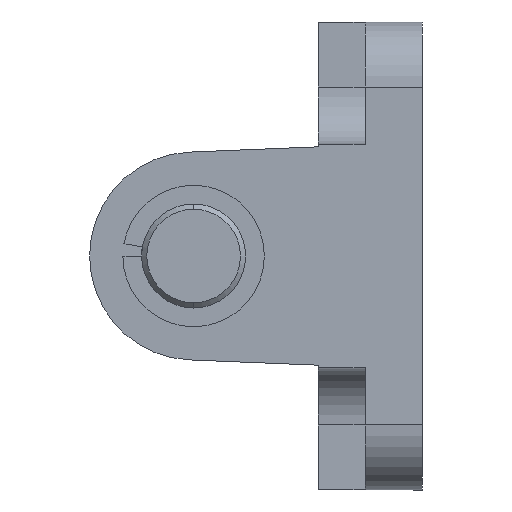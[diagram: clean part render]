
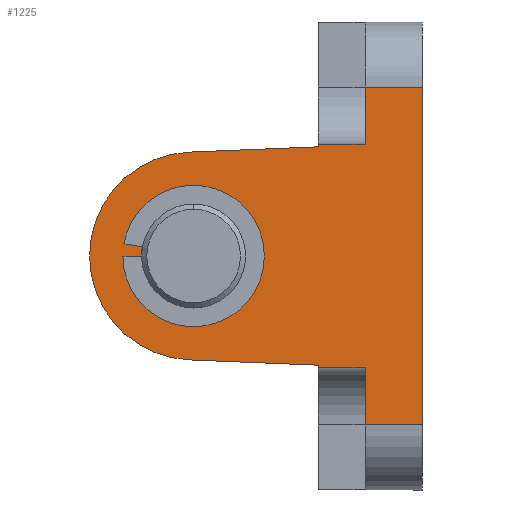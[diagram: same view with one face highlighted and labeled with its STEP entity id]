
A CAD part, left-side view. The second image highlights one B-rep face of the part: STEP entity #1225.
In plain terms, the highlighted planar face has unit normal (-1, 0, 0).
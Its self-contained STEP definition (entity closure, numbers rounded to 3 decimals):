
#337 = DIRECTION ( 'NONE',  ( 0., 1., 0. ) ) ;
#338 = CARTESIAN_POINT ( 'NONE',  ( -22.5, -4.5, -16.25 ) ) ;
#340 = VECTOR ( 'NONE', #344, 1000. ) ;
#344 = DIRECTION ( 'NONE',  ( 0., 0., 1. ) ) ;
#346 = CARTESIAN_POINT ( 'NONE',  ( -22.5, 0., -16.25 ) ) ;
#347 = CARTESIAN_POINT ( 'NONE',  ( -22.5, -10., -16.25 ) ) ;
#348 = VECTOR ( 'NONE', #337, 1000. ) ;
#349 = LINE ( 'NONE', #346, #340 ) ;
#350 = LINE ( 'NONE', #347, #348 ) ;
#354 = VECTOR ( 'NONE', #356, 1000. ) ;
#355 = CARTESIAN_POINT ( 'NONE',  ( -22.5, -4.5, 10.75 ) ) ;
#356 = DIRECTION ( 'NONE',  ( 0., 0., 1. ) ) ;
#360 = LINE ( 'NONE', #355, #354 ) ;
#361 = DIRECTION ( 'NONE',  ( 0., 0., 1. ) ) ;
#362 = VECTOR ( 'NONE', #361, 1000. ) ;
#363 = CARTESIAN_POINT ( 'NONE',  ( -22.5, -4.5, -10.75 ) ) ;
#364 = LINE ( 'NONE', #363, #362 ) ;
#370 = CARTESIAN_POINT ( 'NONE',  ( -22.5, -10., -16.25 ) ) ;
#371 = DIRECTION ( 'NONE',  ( 0., 0., 1. ) ) ;
#372 = VECTOR ( 'NONE', #371, 1000. ) ;
#373 = CARTESIAN_POINT ( 'NONE',  ( -22.5, -10., -16.25 ) ) ;
#374 = LINE ( 'NONE', #373, #372 ) ;
#375 = CARTESIAN_POINT ( 'NONE',  ( -22.5, -4.5, 10.75 ) ) ;
#376 = LINE ( 'NONE', #375, #379 ) ;
#377 = CARTESIAN_POINT ( 'NONE',  ( -22.5, 0., -10.75 ) ) ;
#378 = DIRECTION ( 'NONE',  ( 0., 1., 0. ) ) ;
#379 = VECTOR ( 'NONE', #378, 1000. ) ;
#380 = FACE_BOUND ( 'NONE', #1191, .T. ) ;
#381 = FACE_OUTER_BOUND ( 'NONE', #1220, .T. ) ;
#383 = DIRECTION ( 'NONE',  ( 0., 1., 0. ) ) ;
#384 = VECTOR ( 'NONE', #383, 1000. ) ;
#385 = CARTESIAN_POINT ( 'NONE',  ( -22.5, -4.5, -10.75 ) ) ;
#386 = LINE ( 'NONE', #385, #384 ) ;
#387 = CARTESIAN_POINT ( 'NONE',  ( -22.5, -4.5, -10.75 ) ) ;
#388 = CARTESIAN_POINT ( 'NONE',  ( -22.5, 0., 10.75 ) ) ;
#389 = CARTESIAN_POINT ( 'NONE',  ( -22.5, -4.5, 10.75 ) ) ;
#394 = DIRECTION ( 'NONE',  ( 0., 0., 1. ) ) ;
#395 = DIRECTION ( 'NONE',  ( -1., 0., 0. ) ) ;
#396 = CARTESIAN_POINT ( 'NONE',  ( -22.5, -10., -16.25 ) ) ;
#397 = PLANE ( 'NONE',  #398 ) ;
#398 = AXIS2_PLACEMENT_3D ( 'NONE', #396, #395, #394 ) ;
#447 = EDGE_CURVE ( 'NONE', #534, #538, #1624, .T. ) ;
#458 = VERTEX_POINT ( 'NONE', #1633 ) ;
#482 = EDGE_CURVE ( 'NONE', #458, #534, #1716, .T. ) ;
#490 = VERTEX_POINT ( 'NONE', #1665 ) ;
#491 = VERTEX_POINT ( 'NONE', #1693 ) ;
#492 = EDGE_CURVE ( 'NONE', #491, #490, #1692, .T. ) ;
#534 = VERTEX_POINT ( 'NONE', #1796 ) ;
#538 = VERTEX_POINT ( 'NONE', #1790 ) ;
#1191 = EDGE_LOOP ( 'NONE', ( #1266, #1240 ) ) ;
#1192 = ORIENTED_EDGE ( 'NONE', *, *, #1265, .F. ) ;
#1193 = ORIENTED_EDGE ( 'NONE', *, *, #1194, .F. ) ;
#1194 = EDGE_CURVE ( 'NONE', #1238, #1213, #349, .T. ) ;
#1195 = VERTEX_POINT ( 'NONE', #338 ) ;
#1196 = ORIENTED_EDGE ( 'NONE', *, *, #1197, .F. ) ;
#1197 = EDGE_CURVE ( 'NONE', #1204, #1195, #350, .T. ) ;
#1200 = ORIENTED_EDGE ( 'NONE', *, *, #1289, .F. ) ;
#1201 = ORIENTED_EDGE ( 'NONE', *, *, #447, .F. ) ;
#1203 = ORIENTED_EDGE ( 'NONE', *, *, #492, .T. ) ;
#1204 = VERTEX_POINT ( 'NONE', #370 ) ;
#1205 = ORIENTED_EDGE ( 'NONE', *, *, #1208, .F. ) ;
#1206 = EDGE_CURVE ( 'NONE', #1204, #491, #374, .T. ) ;
#1207 = EDGE_CURVE ( 'NONE', #1195, #1216, #364, .T. ) ;
#1208 = EDGE_CURVE ( 'NONE', #1211, #490, #360, .T. ) ;
#1209 = ORIENTED_EDGE ( 'NONE', *, *, #1212, .T. ) ;
#1210 = ORIENTED_EDGE ( 'NONE', *, *, #1206, .T. ) ;
#1211 = VERTEX_POINT ( 'NONE', #389 ) ;
#1212 = EDGE_CURVE ( 'NONE', #1211, #1213, #376, .T. ) ;
#1213 = VERTEX_POINT ( 'NONE', #388 ) ;
#1214 = VERTEX_POINT ( 'NONE', #377 ) ;
#1215 = EDGE_CURVE ( 'NONE', #1216, #1214, #386, .T. ) ;
#1216 = VERTEX_POINT ( 'NONE', #387 ) ;
#1217 = ORIENTED_EDGE ( 'NONE', *, *, #1207, .F. ) ;
#1220 = EDGE_LOOP ( 'NONE', ( #1284, #1217, #1196, #1210, #1203, #1205, #1209, #1193, #1200, #1201, #1268, #1192 ) ) ;
#1225 = ADVANCED_FACE ( 'NONE', ( #381, #380 ), #397, .T. ) ;
#1238 = VERTEX_POINT ( 'NONE', #1315 ) ;
#1240 = ORIENTED_EDGE ( 'NONE', *, *, #1397, .T. ) ;
#1261 = EDGE_CURVE ( 'NONE', #1473, #1395, #2493, .T. ) ;
#1265 = EDGE_CURVE ( 'NONE', #1214, #458, #2510, .T. ) ;
#1266 = ORIENTED_EDGE ( 'NONE', *, *, #1261, .T. ) ;
#1268 = ORIENTED_EDGE ( 'NONE', *, *, #482, .F. ) ;
#1284 = ORIENTED_EDGE ( 'NONE', *, *, #1215, .F. ) ;
#1289 = EDGE_CURVE ( 'NONE', #538, #1238, #2563, .T. ) ;
#1315 = CARTESIAN_POINT ( 'NONE',  ( -22.5, 0., 10.5 ) ) ;
#1395 = VERTEX_POINT ( 'NONE', #2567 ) ;
#1397 = EDGE_CURVE ( 'NONE', #1395, #1473, #2566, .T. ) ;
#1473 = VERTEX_POINT ( 'NONE', #2719 ) ;
#1621 = DIRECTION ( 'NONE',  ( 1., 0., 0. ) ) ;
#1622 = CARTESIAN_POINT ( 'NONE',  ( -22.5, 12., 0. ) ) ;
#1623 = AXIS2_PLACEMENT_3D ( 'NONE', #1622, #1621, #1628 ) ;
#1624 = CIRCLE ( 'NONE', #1623, 10. ) ;
#1628 = DIRECTION ( 'NONE',  ( 0., 0., -1. ) ) ;
#1633 = CARTESIAN_POINT ( 'NONE',  ( -22.5, 0., -10.5 ) ) ;
#1665 = CARTESIAN_POINT ( 'NONE',  ( -22.5, -4.5, 16.25 ) ) ;
#1691 = CARTESIAN_POINT ( 'NONE',  ( -22.5, -10., 16.25 ) ) ;
#1692 = LINE ( 'NONE', #1691, #1712 ) ;
#1693 = CARTESIAN_POINT ( 'NONE',  ( -22.5, -10., 16.25 ) ) ;
#1711 = DIRECTION ( 'NONE',  ( 0., 1., 0. ) ) ;
#1712 = VECTOR ( 'NONE', #1711, 1000. ) ;
#1713 = DIRECTION ( 'NONE',  ( 0., 0.999, 0.041 ) ) ;
#1714 = VECTOR ( 'NONE', #1713, 1000. ) ;
#1715 = CARTESIAN_POINT ( 'NONE',  ( -22.5, 0., -10.5 ) ) ;
#1716 = LINE ( 'NONE', #1715, #1714 ) ;
#1790 = CARTESIAN_POINT ( 'NONE',  ( -22.5, 12.409, 9.992 ) ) ;
#1796 = CARTESIAN_POINT ( 'NONE',  ( -22.5, 12.409, -9.992 ) ) ;
#2490 = DIRECTION ( 'NONE',  ( 0., 0., -1. ) ) ;
#2491 = DIRECTION ( 'NONE',  ( 1., 0., 0. ) ) ;
#2492 = AXIS2_PLACEMENT_3D ( 'NONE', #2495, #2491, #2490 ) ;
#2493 = CIRCLE ( 'NONE', #2492, 5. ) ;
#2495 = CARTESIAN_POINT ( 'NONE',  ( -22.5, 12., 0. ) ) ;
#2510 = LINE ( 'NONE', #2528, #2512 ) ;
#2511 = DIRECTION ( 'NONE',  ( 0., 0., 1. ) ) ;
#2512 = VECTOR ( 'NONE', #2511, 1000. ) ;
#2528 = CARTESIAN_POINT ( 'NONE',  ( -22.5, 0., -16.25 ) ) ;
#2556 = DIRECTION ( 'NONE',  ( 0., 0., -1. ) ) ;
#2557 = DIRECTION ( 'NONE',  ( 1., 0., 0. ) ) ;
#2558 = CARTESIAN_POINT ( 'NONE',  ( -22.5, 12., 0. ) ) ;
#2559 = AXIS2_PLACEMENT_3D ( 'NONE', #2558, #2557, #2556 ) ;
#2563 = LINE ( 'NONE', #2574, #2573 ) ;
#2566 = CIRCLE ( 'NONE', #2559, 5. ) ;
#2567 = CARTESIAN_POINT ( 'NONE',  ( -22.5, 12., 5. ) ) ;
#2572 = DIRECTION ( 'NONE',  ( 0., -0.999, 0.041 ) ) ;
#2573 = VECTOR ( 'NONE', #2572, 1000. ) ;
#2574 = CARTESIAN_POINT ( 'NONE',  ( -22.5, 12.409, 9.992 ) ) ;
#2719 = CARTESIAN_POINT ( 'NONE',  ( -22.5, 12., -5. ) ) ;
